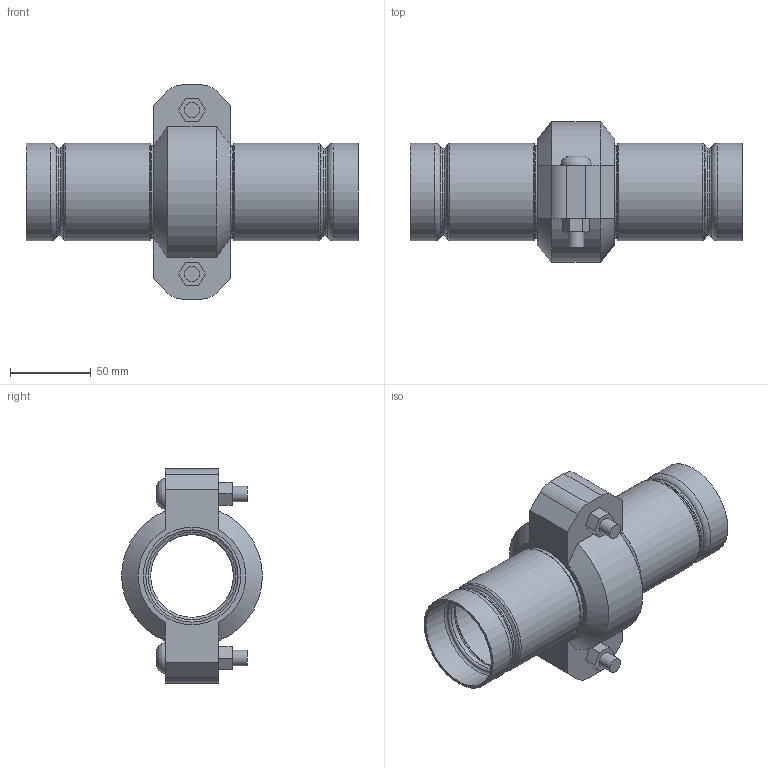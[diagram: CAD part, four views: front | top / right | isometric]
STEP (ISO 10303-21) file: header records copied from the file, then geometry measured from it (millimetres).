
FILE_DESCRIPTION(/* description */ ('VIC STRENGTHIN 100 EXPANSION JOINT 1 COUPLING NEUTRAL STYLE E155 (ST1)','CAx-IF Rec.Pracs.---Representation and Presentation of Product Manufacturing Information (PMI)---4.0---2014-10-13'),/* implementation_level */ '2;1');
FILE_NAME(/* name */ 'C:\Users\Vjadhav\AppData\Roaming\Autodesk\ApplicationPlugins\Victaulic.Temp\A726\Victaulic_SS-StrengThin 100_Expansion Joint_Neutral_1 Coupling_Style E155 (ST1)_1 Coup_Neut_2 (50).stp',/* time_stamp */ '2021-07-20T17:38:27+05:00',/* author */ ('kkamble'),/* organization */ ('Victaulic'),/* preprocessor_version */ 'ST-DEVELOPER v17.2',/* originating_system */ 'Autodesk Inventor 2019',/* authorisation */ '');
FILE_SCHEMA (('AP242_MANAGED_MODEL_BASED_3D_ENGINEERING_MIM_LF { 1 0 10303 442 1 1 4 }'));
Length unit declared in the file: inch
Products named in the file (3): E155-02.0; E494G-02.0; 075-02.0
Assembly tree (3 placements, depth 2):
  E155-02.0
    E494G-02.0  x2
    075-02.0
Bounding box: 205.49 x 87.12 x 132.59 mm (x, y, z)
Volume: 263095.4 mm3; surface area: 118415.6 mm2
Topology: 3 solids, 5 shells, 125 faces, 355 edges, 256 vertices
Faces by surface type: plane 48, cylinder 35, torus 32, cone 8, bspline 2
Full cylindrical faces by diameter (mm): 9.525 x4, 11.43 x2, 51.13 x2, 53.95 x2, 53.975 x1, 54.331 x2, 57.125 x6, 57.15 x2, 60.325 x8
Entity records: 3250 total; most frequent: CARTESIAN_POINT 582, DIRECTION 569, ORIENTED_EDGE 488, EDGE_CURVE 244, AXIS2_PLACEMENT_3D 238, VERTEX_POINT 173, CIRCLE 143, EDGE_LOOP 111
